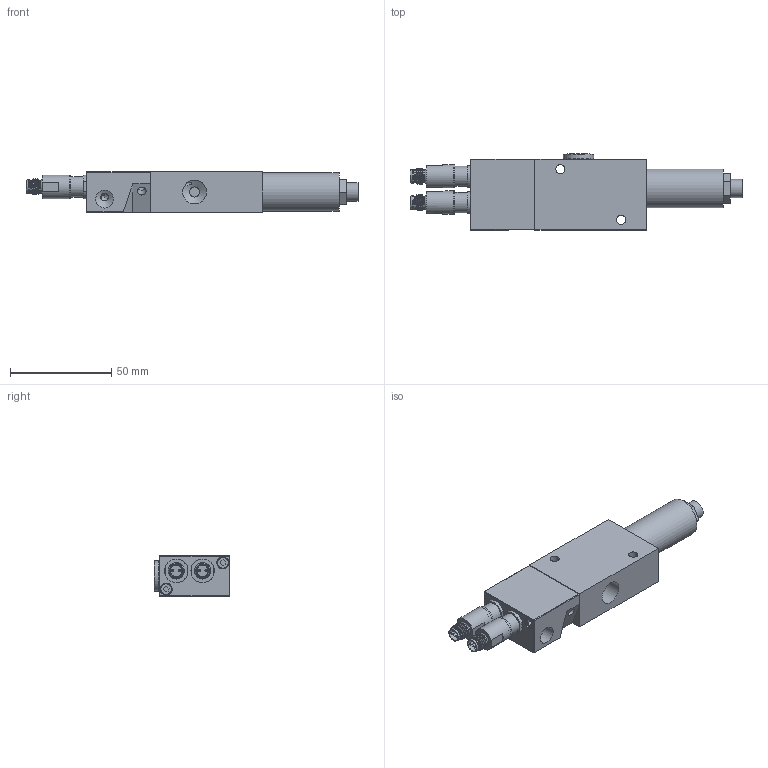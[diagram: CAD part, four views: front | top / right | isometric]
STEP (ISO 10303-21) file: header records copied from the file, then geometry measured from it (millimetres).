
FILE_DESCRIPTION (( 'STEP AP214' ), '1' );
FILE_NAME ('SSV-110DV-UPDATED.STEP', '2025-09-15T17:42:36', ( '' ), ( '' ), 'SwSTEP 2.0', 'SolidWorks 2025', '' );
FILE_SCHEMA (( 'AUTOMOTIVE_DESIGN' ));
Length unit declared in the file: inch
Products named in the file (3): GS-ST14; SSV-100DV; SSV-110DV-UPDATED
Assembly tree (2 placements, depth 2):
  SSV-110DV-UPDATED
    SSV-100DV
    GS-ST14
Bounding box: 163.9 x 37.5 x 20 mm (x, y, z)
Volume: 66351.3 mm3; surface area: 34468.5 mm2
Topology: 27 solids, 27 shells, 1063 faces, 3056 edges, 2065 vertices
Faces by surface type: cylinder 403, plane 392, torus 97, cone 87, bspline 70, sphere 14
Full cylindrical faces by diameter (mm): 0.85 x4, 1 x12, 1.2 x8, 1.6 x4, 2 x3, 2.5 x3, 3 x3, 3.2 x2, 3.8 x1, 4 x1, 4.2 x1, 4.5 x2, 5 x2, 5.5 x2, 5.8 x2, 6 x5, 6.4 x1, 6.5 x4, 6.65 x2, 6.9 x2, 7.8 x4, 8 x5, 8.2 x3, 8.28 x2, 8.3 x2, 8.51 x2, 8.8 x4, 8.95 x1, 9.5 x8, 9.728 x1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
Entity records: 41731 total; most frequent: CARTESIAN_POINT 16787, ORIENTED_EDGE 5246, DIRECTION 4809, EDGE_CURVE 2623, AXIS2_PLACEMENT_3D 1966, VERTEX_POINT 1919, EDGE_LOOP 1426, FACE_OUTER_BOUND 1219
